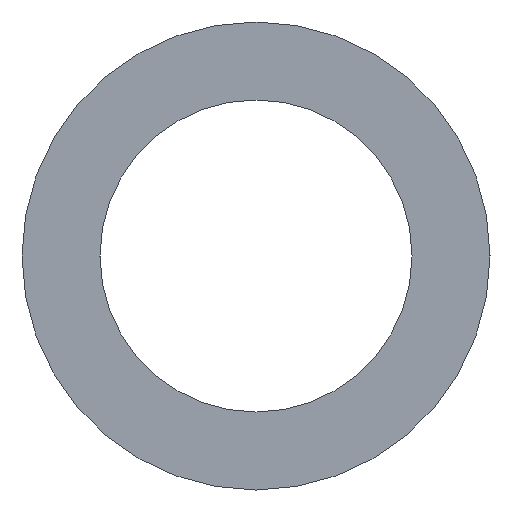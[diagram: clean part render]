
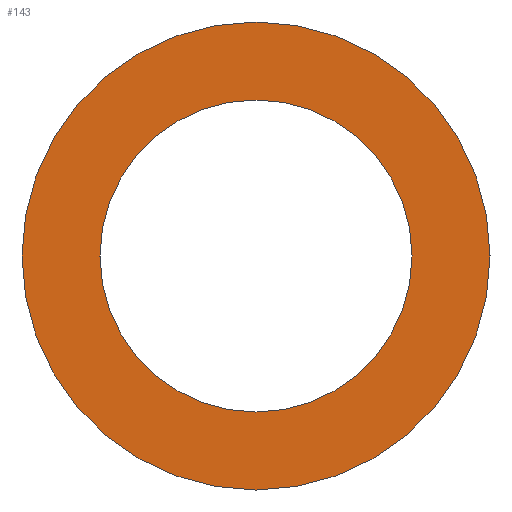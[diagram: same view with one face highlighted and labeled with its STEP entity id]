
A CAD part, left-side view. The second image highlights one B-rep face of the part: STEP entity #143.
In plain terms, the highlighted planar face has unit normal (-1, 0, 0).
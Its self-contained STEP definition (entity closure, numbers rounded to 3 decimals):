
#21=PLANE('',#173);
#32=ORIENTED_EDGE('',*,*,#55,.F.);
#33=ORIENTED_EDGE('',*,*,#56,.T.);
#55=EDGE_CURVE('',#67,#67,#79,.T.);
#56=EDGE_CURVE('',#68,#68,#80,.T.);
#67=VERTEX_POINT('',#255);
#68=VERTEX_POINT('',#257);
#79=CIRCLE('',#174,30.);
#80=CIRCLE('',#175,20.);
#92=EDGE_LOOP('',(#32));
#93=EDGE_LOOP('',(#33));
#116=FACE_BOUND('',#92,.T.);
#117=FACE_BOUND('',#93,.T.);
#143=ADVANCED_FACE('',(#116,#117),#21,.F.);
#173=AXIS2_PLACEMENT_3D('',#253,#207,#208);
#174=AXIS2_PLACEMENT_3D('',#254,#209,#210);
#175=AXIS2_PLACEMENT_3D('',#256,#211,#212);
#207=DIRECTION('',(1.,0.,0.));
#208=DIRECTION('',(0.,0.,-1.));
#209=DIRECTION('',(1.,0.,0.));
#210=DIRECTION('',(0.,0.,-1.));
#211=DIRECTION('',(1.,0.,0.));
#212=DIRECTION('',(0.,0.,-1.));
#253=CARTESIAN_POINT('',(-75.5,0.,0.));
#254=CARTESIAN_POINT('',(-75.5,0.,0.));
#255=CARTESIAN_POINT('',(-75.5,0.,-30.));
#256=CARTESIAN_POINT('',(-75.5,0.,0.));
#257=CARTESIAN_POINT('',(-75.5,0.,-20.));
